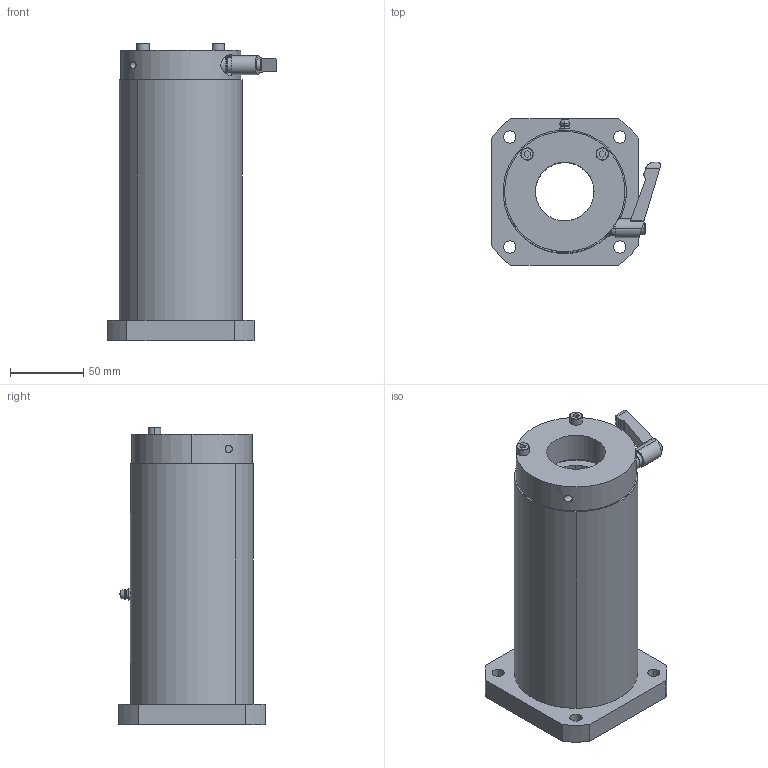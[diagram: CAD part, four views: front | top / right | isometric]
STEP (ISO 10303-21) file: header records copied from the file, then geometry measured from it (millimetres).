
FILE_DESCRIPTION (( 'STEP AP214' ), '1' );
FILE_NAME ('LFWK40-OH-C.STEP', '2023-06-27T02:13:26', ( '' ), ( '' ), 'SwSTEP 2.0', 'SolidWorks 2019', '' );
FILE_SCHEMA (( 'AUTOMOTIVE_DESIGN' ));
Length unit declared in the file: millimetre
Products named in the file (3): LFWK40-OH-C; “ÁSCK4020CO-S5.5; LFWK40-OH
Assembly tree (2 placements, depth 2):
  LFWK40-OH-C
    LFWK40-OH
    “ÁSCK4020CO-S5.5
Bounding box: 115.4 x 100 x 203 mm (x, y, z)
Volume: 886348.6 mm3; surface area: 125584.4 mm2
Topology: 4 solids, 10 shells, 231 faces, 560 edges, 355 vertices
Faces by surface type: cylinder 83, plane 69, bspline 47, cone 20, torus 8, sphere 4
Entity records: 10075 total; most frequent: CARTESIAN_POINT 2262, DIRECTION 1166, ORIENTED_EDGE 1116, EDGE_CURVE 558, AXIS2_PLACEMENT_3D 484, VERTEX_POINT 354, CIRCLE 295, EDGE_LOOP 280
